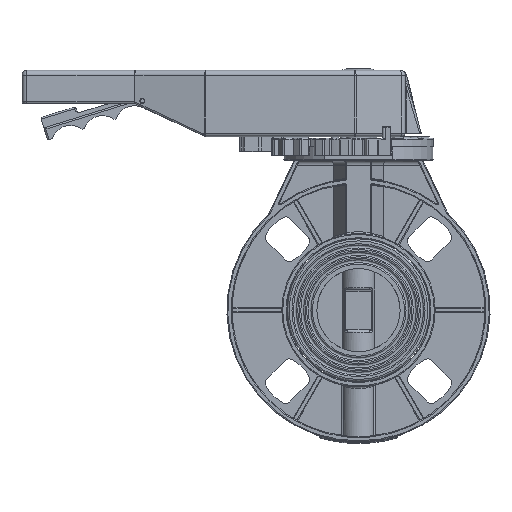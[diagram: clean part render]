
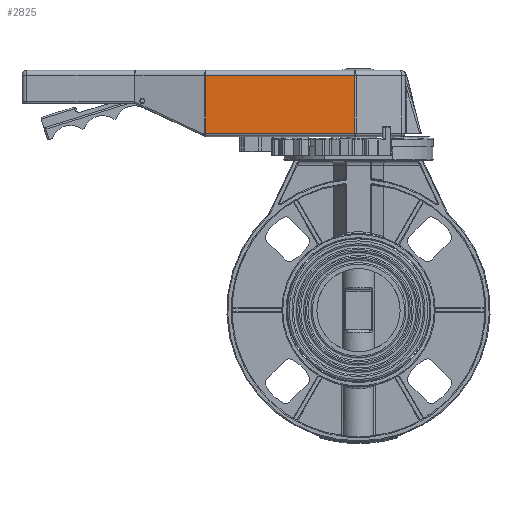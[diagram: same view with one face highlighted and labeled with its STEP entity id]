
A CAD part, top view. The second image highlights one B-rep face of the part: STEP entity #2825.
In plain terms, the highlighted planar face has unit normal (0, 0, 1).
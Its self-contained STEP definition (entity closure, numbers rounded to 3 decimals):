
#2825=ADVANCED_FACE('',(#12281),#12283,.T.);
#12281=FACE_BOUND('',#12282,.T.);
#12282=EDGE_LOOP('',(#22451,#22452,#22453,#22454));
#12283=PLANE('',#12284);
#12284=AXIS2_PLACEMENT_3D('',#12285,#12286,#12287);
#12285=CARTESIAN_POINT('',(-134.5,104.2,16.));
#12286=DIRECTION('',(0.,0.,1.));
#12287=DIRECTION('',(1.,0.,0.));
#22451=ORIENTED_EDGE('',*,*,#26083,.F.);
#22452=ORIENTED_EDGE('',*,*,#26648,.F.);
#22453=ORIENTED_EDGE('',*,*,#26649,.F.);
#22454=ORIENTED_EDGE('',*,*,#26650,.F.);
#26083=EDGE_CURVE('',#28842,#28847,#28848,.T.);
#26648=EDGE_CURVE('',#29728,#28842,#29730,.T.);
#26649=EDGE_CURVE('',#29731,#29728,#29732,.T.);
#26650=EDGE_CURVE('',#28847,#29731,#29733,.T.);
#28842=VERTEX_POINT('',#35778);
#28847=VERTEX_POINT('',#35799);
#28848=LINE('',#35800,#35801);
#29728=VERTEX_POINT('',#40008);
#29730=LINE('',#40013,#40014);
#29731=VERTEX_POINT('',#40016);
#29732=LINE('',#40017,#40018);
#29733=LINE('',#40020,#40021);
#35778=CARTESIAN_POINT('',(-2.251,106.2,16.));
#35799=CARTESIAN_POINT('',(-91.703,106.2,16.));
#35800=CARTESIAN_POINT('',(-2.251,106.2,16.));
#35801=VECTOR('',#35802,1.);
#35802=DIRECTION('',(-1.,0.,0.));
#40008=CARTESIAN_POINT('',(-2.251,141.,16.));
#40013=CARTESIAN_POINT('',(-2.251,141.,16.));
#40014=VECTOR('',#40015,1.);
#40015=DIRECTION('',(0.,-1.,0.));
#40016=CARTESIAN_POINT('',(-91.703,141.,16.));
#40017=CARTESIAN_POINT('',(-91.703,141.,16.));
#40018=VECTOR('',#40019,1.);
#40019=DIRECTION('',(1.,0.,0.));
#40020=CARTESIAN_POINT('',(-91.703,106.2,16.));
#40021=VECTOR('',#40022,1.);
#40022=DIRECTION('',(0.,1.,0.));
